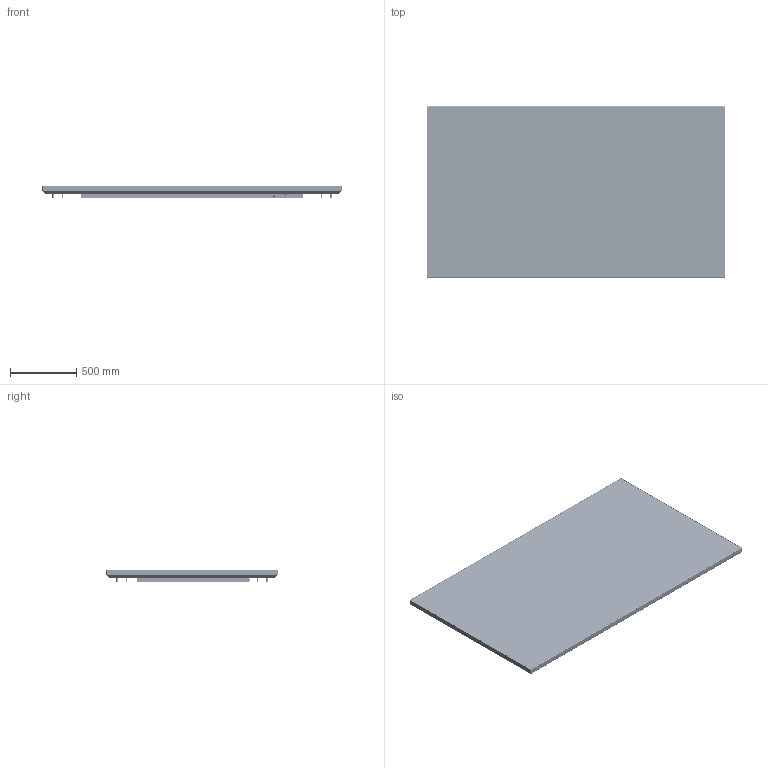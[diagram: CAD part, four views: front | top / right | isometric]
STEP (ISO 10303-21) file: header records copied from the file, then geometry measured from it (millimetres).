
FILE_DESCRIPTION (( 'STEP AP203' ), '1' );
FILE_NAME ('URX100 ERO Panel 3D.STEP', '2021-01-19T19:32:35', ( '' ), ( '' ), 'SwSTEP 2.0', 'SolidWorks 2019', '' );
FILE_SCHEMA (( 'CONFIG_CONTROL_DESIGN' ));
Length unit declared in the file: millimetre
Products named in the file (66): 591-0361_bonded; 437-2443; 927-0063; 572-4464; B18.6.7M - M3 x 0.5 x 6 Type I Cross Recessed FHMS --6N BLK_PreviewCfg; RIVET - 125 BUTTON HEAD; 572-5304_Masked; Hayden common tray_Hayden 100; PEM S-M3-1 ZI--N_PEM S-M3-1 ZI--N; 572-5339_Masked; B18.6.7M - M4 x 0.7 x 6 Type I Cross Recessed PHMS --6N BLK_B18.6.7M - M4 x 0.7 x 6 Type I Cross Recessed PHMS BLK --6N; 572-5378; 82-35-302-15 spring; 10SS6-B2AHR-QPB; 82-35-302-15 base; PEM SO-3.5M3-8 ZI--N_PEM SO-3.5M3-8 ZI--N; PEM S-M4-1 ZI--N; B18.6.7M - M3 x 0.5 x 6 Type I Cross Recessed FHMS --6N_B18.6.7M - M3 x 0.5 x 6 Type I Cross Recessed FHMS --6N; PEM BSO-3.5M3-10 ZI--N_PEM BSO-3.5M3-10 ZI--N; 572-5379; PF11MF-M4-1; 540-0192; 572-5367; Simplified module_id_Fu_Sa00dk1-k02_180328-No2_Shell; 105-0022-00; PEM PF11-M4-1-ZI--N; PEM SO-M3-3 ZI--N_PEM SO-M3-3 ZI--N; 572-5304; 572-5345; RIVET - 093 C''SINK; Shell Version of 944-2980; 572-5380; PLP2-125 (Lens); PEM S-M3-0 ZI--N_PEM S-M3-0 ZI--N; PEM FH-M6-15 ZI--N_PEM FH-M6-15 ZI--N; PEM TPS-4mm-8_PreviewCfg; PEM TPS-4mm-16; B18.3.5M - 6 x 1.0 x 40 Socket FCHS  -- 40N_B18.3.5M - 6 x 1.0 x 40 Socket FCHS  -- 40N; 105-0018-50; PEM SO-3.5M3-4 ZI--N_PEM SO-3.5M3-4 ZI--N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
Assembly tree (254 placements, depth 6):
  URX100 ERO Panel 3D
    Simplified module_id_Fu_Sa00dk1-k02_180328-No2_Shell
    927-0063
      591-0361_bonded
    Hayden common tray_Hayden 100
      437-2443
        572-5304
          572-5304_Masked
          PEM BSO-3.5M3-14 ZI--N_PEM BSO-3.5M3-14 ZI--N  x12
          PEM SO-3.5M3-8 ZI--N_PEM SO-3.5M3-8 ZI--N  x9
          PEM BSO-3.5M3-10 ZI--N_PEM BSO-3.5M3-10 ZI--N  x6
          PEM PF11-M4-1-ZI--N  x4
          105-0018-50
            82-35-302-15 spring
            82-35-302-15 base
          RIVET - 093 C''SINK  x2
          PEM FH-M6-15 ZI--N_PEM FH-M6-15 ZI--N
          PEM S-M4-1 ZI--N  x2
          PEM S-M3-1 ZI--N_PEM S-M3-1 ZI--N  x2
          PEM TPS-4mm-16  x2
        572-5339_Masked
        B18.6.7M - M4 x 0.7 x 6 Type I Cross Recessed PHMS --6N BLK_B18.6.7M - M4 x 0.7 x 6 Type I Cross Recessed PHMS BLK --6N  x2
        572-5345
          572-5345
          PEM SO-M3-3 ZI--N_PEM SO-M3-3 ZI--N  x2
        572-5345
          572-5345
          PEM SO-M3-3 ZI--N_PEM SO-M3-3 ZI--N  x2
        572-5345
          572-5345
          PEM SO-M3-3 ZI--N_PEM SO-M3-3 ZI--N  x2
        572-5345
          572-5345
          PEM SO-M3-3 ZI--N_PEM SO-M3-3 ZI--N  x2
        572-5345
          572-5345
          PEM SO-M3-3 ZI--N_PEM SO-M3-3 ZI--N  x2
        572-5345
          572-5345
          PEM SO-M3-3 ZI--N_PEM SO-M3-3 ZI--N  x2
        RIVET - 125 BUTTON HEAD  x12
      10SS6-B2AHR-QPB
      572-5367
        572-5367
        PF11MF-M4-1  x2
        PEM SO-3.5M3-4 ZI--N_PEM SO-3.5M3-4 ZI--N  x8
        PEM TPS-4mm-8_PreviewCfg  x2
        105-0020-00
        105-0022-00
        82-19-180-16
        B18.6.7M - M3 x 0.5 x 6 Type I Cross Recessed FHMS --6N_B18.6.7M - M3 x 0.5 x 6 Type I Cross Recessed FHMS --6N  x8
        B18.22M - Plain washer, 3 mm, wide_B18.22M - Plain washer, 3 mm, wide  x8
    572-4464
      572-4464
      PLP2-125 (Lens)
    540-0192
    B18.6.7M - M3 x 0.5 x 6 Type I Cross Recessed FHMS --6N BLK_PreviewCfg  x4
    B18.6.7M - M4 x 0.7 x 10 Type I Cross Recessed FHMS --10N - BLK_B18.6.7M - M4 x 0.7 x 10 Type I Cross Recessed FHMS --10N  x44
    572-5347  x2
    572-5348  x2
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Bounding box: 2260.88 x 1294.18 x 94.33 mm (x, y, z)
Volume: 16861061.1 mm3; surface area: 20372939.6 mm2
Topology: 234 solids, 359 shells, 15138 faces, 42783 edges, 28498 vertices
Faces by surface type: plane 7429, cylinder 5503, bspline 1053, cone 815, torus 218, sphere 120
Entity records: 394089 total; most frequent: CARTESIAN_POINT 105137, ORIENTED_EDGE 56325, DIRECTION 55211, EDGE_CURVE 30552, VERTEX_POINT 21099, VECTOR 18435, LINE 18435, AXIS2_PLACEMENT_3D 18388
